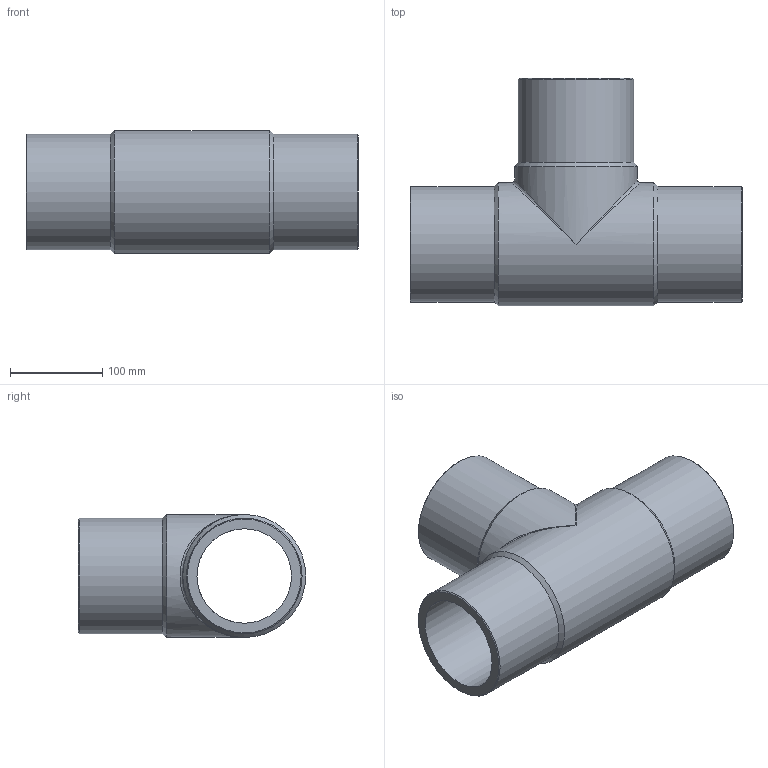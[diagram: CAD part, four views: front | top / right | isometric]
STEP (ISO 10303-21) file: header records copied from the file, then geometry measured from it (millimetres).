
FILE_DESCRIPTION(/* description */ ('Unknown'),/* implementation_level */ '2;1');
FILE_NAME(/* name */ 'TP125C',/* time_stamp */ '2021-08-12T16:20:27+02:00',/* author */ ('Unknown'),/* organization */ ('Unknown'),/* preprocessor_version */ 'ST-DEVELOPER v16.7',/* originating_system */ 'Solid Edge',/* authorisation */ 'Unknown');
FILE_SCHEMA (('AUTOMOTIVE_DESIGN {1 0 10303 214 3 1 1}'));
Length unit declared in the file: millimetre
Products named in the file (1): TP125C
Bounding box: 359 x 246 x 133 mm (x, y, z)
Volume: 2181579.7 mm3; surface area: 347751.3 mm2
Topology: 1 solids, 1 shells, 18 faces, 44 edges, 23 vertices
Faces by surface type: cylinder 7, cone 6, plane 3, bspline 2
Full cylindrical faces by diameter (mm): 102.2 x2, 125 x3, 133 x2
Entity records: 504 total; most frequent: CARTESIAN_POINT 147, DIRECTION 76, ORIENTED_EDGE 42, AXIS2_PLACEMENT_3D 38, EDGE_LOOP 36, FACE_BOUND 36, EDGE_CURVE 21, VERTEX_POINT 19
